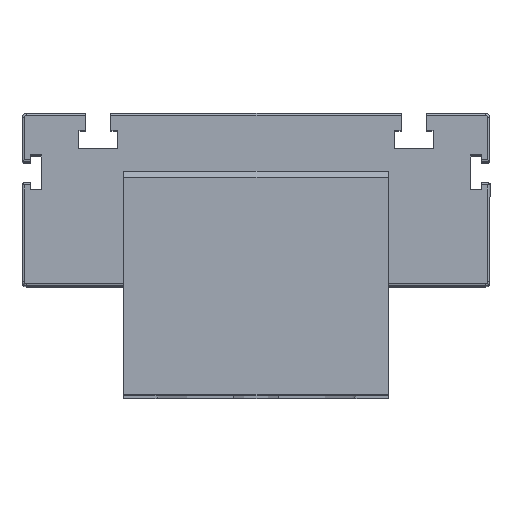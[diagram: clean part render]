
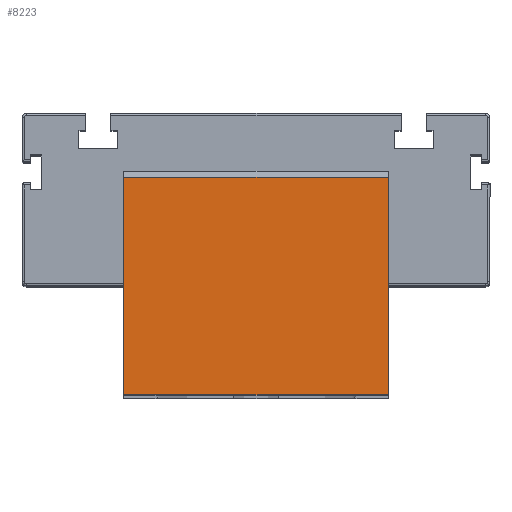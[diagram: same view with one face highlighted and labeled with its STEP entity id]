
A CAD part, top view. The second image highlights one B-rep face of the part: STEP entity #8223.
In plain terms, the highlighted planar face has unit normal (0, 0, 1).
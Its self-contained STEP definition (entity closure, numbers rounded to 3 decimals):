
#318 = LINE ( 'NONE', #7916, #2578 ) ;
#1268 = ORIENTED_EDGE ( 'NONE', *, *, #14591, .F. ) ;
#1605 = ORIENTED_EDGE ( 'NONE', *, *, #7477, .F. ) ;
#2171 = CARTESIAN_POINT ( 'NONE',  ( 130., 0., 55. ) ) ;
#2435 = LINE ( 'NONE', #2171, #14121 ) ;
#2578 = VECTOR ( 'NONE', #11305, 1000. ) ;
#2676 = CARTESIAN_POINT ( 'NONE',  ( 0., 107., 55. ) ) ;
#3217 = EDGE_CURVE ( 'NONE', #3932, #6315, #10489, .T. ) ;
#3237 = EDGE_LOOP ( 'NONE', ( #1268, #4625, #9390, #1605 ) ) ;
#3640 = CARTESIAN_POINT ( 'NONE',  ( 0., 0., 55. ) ) ;
#3932 = VERTEX_POINT ( 'NONE', #2676 ) ;
#4227 = VERTEX_POINT ( 'NONE', #8865 ) ;
#4550 = FACE_OUTER_BOUND ( 'NONE', #3237, .T. ) ;
#4625 = ORIENTED_EDGE ( 'NONE', *, *, #13857, .T. ) ;
#5886 = DIRECTION ( 'NONE',  ( 0., 1., 0. ) ) ;
#6234 = CARTESIAN_POINT ( 'NONE',  ( 0., 0., 55. ) ) ;
#6315 = VERTEX_POINT ( 'NONE', #6234 ) ;
#6639 = AXIS2_PLACEMENT_3D ( 'NONE', #11481, #12674, #5886 ) ;
#7477 = EDGE_CURVE ( 'NONE', #4227, #6315, #2435, .T. ) ;
#7916 = CARTESIAN_POINT ( 'NONE',  ( 130., 0., 55. ) ) ;
#8223 = ADVANCED_FACE ( 'NONE', ( #4550 ), #10369, .F. ) ;
#8772 = CARTESIAN_POINT ( 'NONE',  ( 130., 107., 55. ) ) ;
#8865 = CARTESIAN_POINT ( 'NONE',  ( 130., 0., 55. ) ) ;
#9390 = ORIENTED_EDGE ( 'NONE', *, *, #3217, .T. ) ;
#9778 = VECTOR ( 'NONE', #12688, 1000. ) ;
#9923 = DIRECTION ( 'NONE',  ( -1., 0., 0. ) ) ;
#10055 = DIRECTION ( 'NONE',  ( -1., 0., 0. ) ) ;
#10178 = LINE ( 'NONE', #8772, #13229 ) ;
#10369 = PLANE ( 'NONE',  #6639 ) ;
#10489 = LINE ( 'NONE', #3640, #9778 ) ;
#11305 = DIRECTION ( 'NONE',  ( 0., -1., 0. ) ) ;
#11481 = CARTESIAN_POINT ( 'NONE',  ( 130., 0., 55. ) ) ;
#12061 = CARTESIAN_POINT ( 'NONE',  ( 130., 107., 55. ) ) ;
#12674 = DIRECTION ( 'NONE',  ( 0., 0., -1. ) ) ;
#12688 = DIRECTION ( 'NONE',  ( 0., -1., 0. ) ) ;
#12759 = VERTEX_POINT ( 'NONE', #12061 ) ;
#13229 = VECTOR ( 'NONE', #9923, 1000. ) ;
#13857 = EDGE_CURVE ( 'NONE', #12759, #3932, #10178, .T. ) ;
#14121 = VECTOR ( 'NONE', #10055, 1000. ) ;
#14591 = EDGE_CURVE ( 'NONE', #12759, #4227, #318, .T. ) ;
